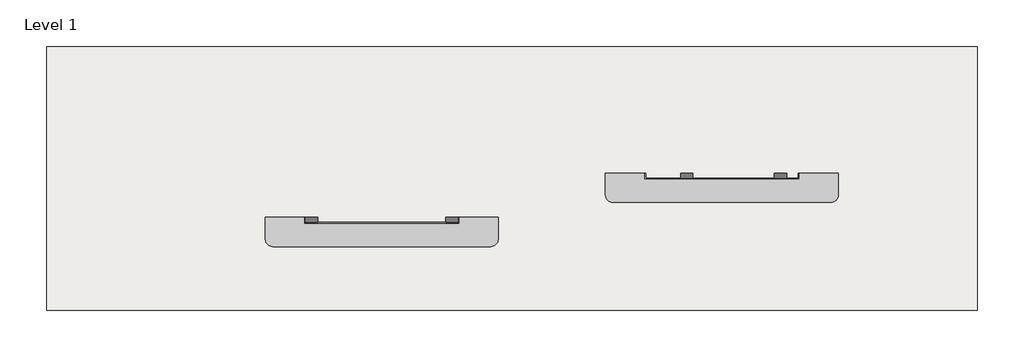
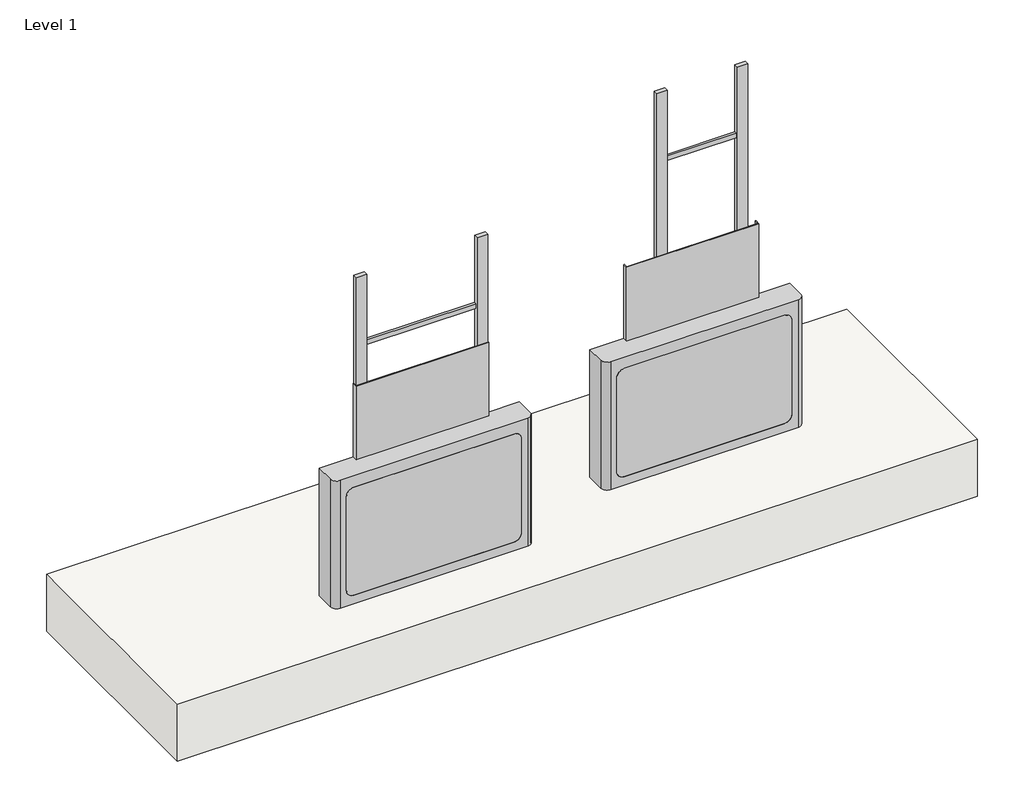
# One storey: 2 proxies, 1 slab.
"""IFC4 building model written with IfcOpenShell, lengths in millimetres."""

from ifc_helpers import new_model, si_unit, frame, origin, place, context, project, spatial, polyline, outline, extrude, transform, mapped, element, save
from components import flat_panel_floor_support_system_190e1e95, flat_panel_floor_support_system_c9aacf25

model = new_model("IFC4")

# Units and contexts
model_context = context("Model", 3, world=origin())
ifc_project = project(units=[si_unit("LENGTHUNIT", "METRE", prefix="MILLI")], contexts=[model_context])

# Site, building, storey
site = spatial("IfcSite", under=ifc_project)
building = spatial("IfcBuilding", under=site)
storey = spatial("IfcBuildingStorey", under=building, Name="Level 1", Elevation=0.0)

# Proxies
placement = place(None, origin())
flat_panel_floor_support_system_shape = flat_panel_floor_support_system_190e1e95(model_context)
element("IfcBuildingElementProxy", 1, Name="Flat_Panel_Mount-Chief-Floor_Support_System : Flat Panel Floor Support System", ObjectType="Flat_Panel_Mount-Chief-Floor_Support_System : Flat Panel Floor Support System", at=placement, inside=storey, context=model_context, shape_type="MappedRepresentation", body=[
    mapped(flat_panel_floor_support_system_shape, transform((2175.3773783, 2085.1022857, 0.0), x_axis=(1.0, 0.0, 0.0), y_axis=(0.0, 1.0, 0.0), z_axis=(0.0, 0.0, 1.0))),
])
flat_panel_floor_support_system_2_shape = flat_panel_floor_support_system_c9aacf25(model_context)
element("IfcBuildingElementProxy", 2, Name="Flat_Panel_Mount-Chief-Floor_Support_System : Flat Panel Floor Support System", ObjectType="Flat_Panel_Mount-Chief-Floor_Support_System : Flat Panel Floor Support System", at=placement, inside=storey, context=model_context, shape_type="MappedRepresentation", body=[
    mapped(flat_panel_floor_support_system_2_shape, transform((3650.9247522, 2277.0278598, 0.0), x_axis=(1.0, 0.0, 0.0), y_axis=(0.0, 1.0, 0.0), z_axis=(0.0, 0.0, 1.0))),
])

# Slab
element("IfcSlab", 3, ObjectType="Generic - 12\"", at=placement, inside=storey, context=model_context, shape_type="SweptSolid", body=[
    extrude(outline(polyline([(4759.7659543, 2825.8758812), (4759.7659543, 1682.8758812), (721.1659543, 1682.8758812), (721.1659543, 2825.8758812), (4759.7659543, 2825.8758812)])), frame((0.0, 0.0, -304.8), z_axis=(0.0, 0.0, 1.0), x_axis=(1.0, 0.0, 0.0)), (0.0, 0.0, 1.0), 304.8),
])

save(model, "model.ifc")
